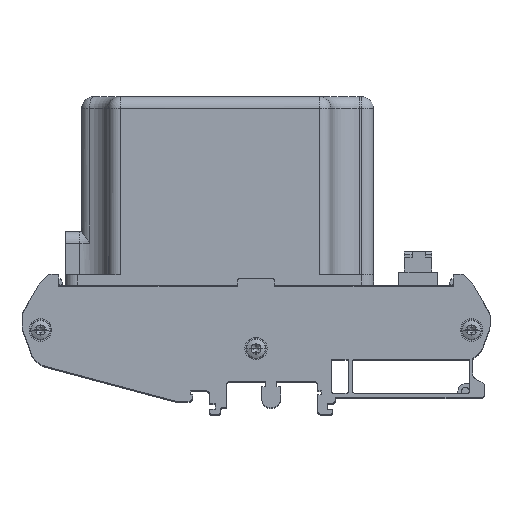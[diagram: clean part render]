
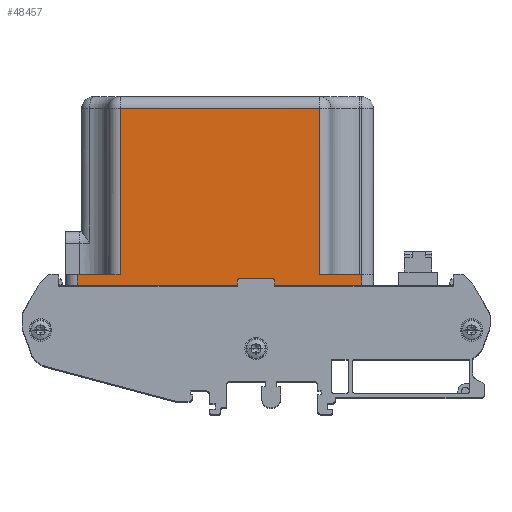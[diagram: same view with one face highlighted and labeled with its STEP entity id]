
A CAD part, top view. The second image highlights one B-rep face of the part: STEP entity #48457.
In plain terms, the highlighted planar face has unit normal (0, 0, 1).
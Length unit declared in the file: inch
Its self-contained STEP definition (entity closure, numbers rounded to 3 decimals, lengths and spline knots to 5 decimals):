
#44319=DIRECTION('',(1.,0.,0.));
#44320=VECTOR('',#44319,3.);
#44321=CARTESIAN_POINT('',(0.52991,0.77113,4.7395));
#44322=LINE('',#44321,#44320);
#44754=DIRECTION('',(1.,0.,0.));
#44755=VECTOR('',#44754,2.1);
#44756=CARTESIAN_POINT('',(0.97991,2.64613,4.7395));
#44757=LINE('',#44756,#44755);
#44890=DIRECTION('',(-1.,0.,0.));
#44891=VECTOR('',#44890,0.45);
#44892=CARTESIAN_POINT('',(3.52991,0.89113,4.7395));
#44893=LINE('',#44892,#44891);
#44909=DIRECTION('',(0.,-1.,0.));
#44910=VECTOR('',#44909,0.12);
#44911=CARTESIAN_POINT('',(3.52991,0.89113,4.7395));
#44912=LINE('',#44911,#44910);
#44931=DIRECTION('',(0.,-1.,0.));
#44932=VECTOR('',#44931,0.12);
#44933=CARTESIAN_POINT('',(0.52991,0.89113,4.7395));
#44934=LINE('',#44933,#44932);
#45148=DIRECTION('',(-1.,0.,0.));
#45149=VECTOR('',#45148,0.45);
#45150=CARTESIAN_POINT('',(0.97991,0.89113,4.7395));
#45151=LINE('',#45150,#45149);
#45179=DIRECTION('',(0.,-1.,0.));
#45180=VECTOR('',#45179,1.755);
#45181=CARTESIAN_POINT('',(0.97991,2.64613,4.7395));
#45182=LINE('',#45181,#45180);
#45938=DIRECTION('',(0.,-1.,0.));
#45939=VECTOR('',#45938,1.755);
#45940=CARTESIAN_POINT('',(3.07991,2.64613,4.7395));
#45941=LINE('',#45940,#45939);
#47291=CARTESIAN_POINT('',(0.97991,2.64613,4.7395));
#47292=CARTESIAN_POINT('',(3.07991,2.64613,4.7395));
#47293=VERTEX_POINT('',#47291);
#47294=VERTEX_POINT('',#47292);
#47313=CARTESIAN_POINT('',(3.07991,0.89113,4.7395));
#47314=VERTEX_POINT('',#47313);
#47315=CARTESIAN_POINT('',(0.97991,0.89113,4.7395));
#47316=VERTEX_POINT('',#47315);
#47328=CARTESIAN_POINT('',(0.52991,0.89113,4.7395));
#47330=VERTEX_POINT('',#47328);
#47331=CARTESIAN_POINT('',(3.52991,0.89113,4.7395));
#47333=VERTEX_POINT('',#47331);
#47504=CARTESIAN_POINT('',(0.52991,0.77113,4.7395));
#47505=CARTESIAN_POINT('',(3.52991,0.77113,4.7395));
#47506=VERTEX_POINT('',#47504);
#47507=VERTEX_POINT('',#47505);
#48438=CARTESIAN_POINT('',(0.85491,0.77113,4.7395));
#48439=DIRECTION('',(0.,0.,1.));
#48440=DIRECTION('',(1.,0.,0.));
#48441=AXIS2_PLACEMENT_3D('',#48438,#48439,#48440);
#48442=PLANE('',#48441);
#48443=ORIENTED_EDGE('',*,*,#47847,.F.);
#48445=ORIENTED_EDGE('',*,*,#48444,.F.);
#48447=ORIENTED_EDGE('',*,*,#48446,.F.);
#48449=ORIENTED_EDGE('',*,*,#48448,.F.);
#48450=ORIENTED_EDGE('',*,*,#48275,.T.);
#48452=ORIENTED_EDGE('',*,*,#48451,.T.);
#48453=ORIENTED_EDGE('',*,*,#48388,.F.);
#48454=ORIENTED_EDGE('',*,*,#48431,.T.);
#48455=EDGE_LOOP('',(#48443,#48445,#48447,#48449,#48450,#48452,#48453,#48454));
#48456=FACE_OUTER_BOUND('',#48455,.F.);
#48457=ADVANCED_FACE('',(#48456),#48442,.T.);
#47847=EDGE_CURVE('',#47506,#47507,#44322,.T.);
#48275=EDGE_CURVE('',#47293,#47294,#44757,.T.);
#48388=EDGE_CURVE('',#47333,#47314,#44893,.T.);
#48431=EDGE_CURVE('',#47333,#47507,#44912,.T.);
#48444=EDGE_CURVE('',#47330,#47506,#44934,.T.);
#48446=EDGE_CURVE('',#47316,#47330,#45151,.T.);
#48448=EDGE_CURVE('',#47293,#47316,#45182,.T.);
#48451=EDGE_CURVE('',#47294,#47314,#45941,.T.);
